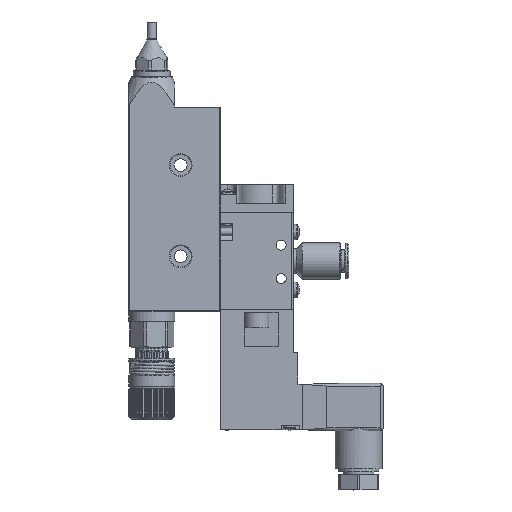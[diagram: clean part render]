
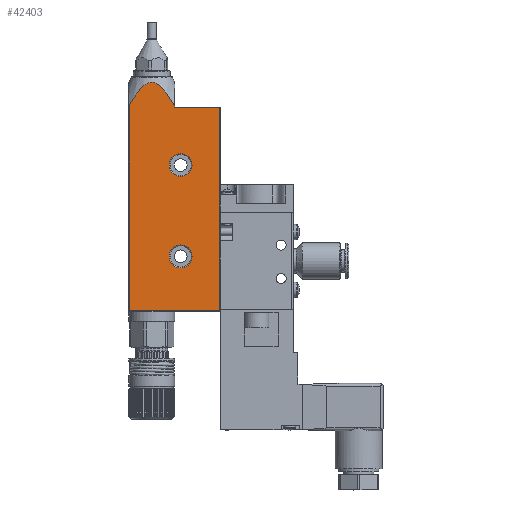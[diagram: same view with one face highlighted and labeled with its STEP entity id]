
A CAD part, left-side view. The second image highlights one B-rep face of the part: STEP entity #42403.
In plain terms, the highlighted planar face has unit normal (-1, 0, 0).
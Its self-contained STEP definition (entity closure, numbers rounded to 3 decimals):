
#72 = CARTESIAN_POINT ( 'NONE',  ( -7.5, -3.358, 34.871 ) ) ;
#244 = CARTESIAN_POINT ( 'NONE',  ( -7.5, -9.5, -20.5 ) ) ;
#413 = CARTESIAN_POINT ( 'NONE',  ( -7.5, 7.5, 28.5 ) ) ;
#504 = CARTESIAN_POINT ( 'NONE',  ( -7.5, 0.235, 36.643 ) ) ;
#711 = CARTESIAN_POINT ( 'NONE',  ( -7.5, 2.151, 35.9 ) ) ;
#783 = VECTOR ( 'NONE', #19632, 1000. ) ;
#930 = CARTESIAN_POINT ( 'NONE',  ( -7.5, 6.843, 30.091 ) ) ;
#1062 = DIRECTION ( 'NONE',  ( 0., 0., 1. ) ) ;
#1589 = VERTEX_POINT ( 'NONE', #13764 ) ;
#2320 = EDGE_CURVE ( 'NONE', #20721, #22735, #36773, .T. ) ;
#2684 = DIRECTION ( 'NONE',  ( 0., -1., 0. ) ) ;
#3169 = EDGE_CURVE ( 'NONE', #32420, #32420, #12852, .T. ) ;
#3564 = VECTOR ( 'NONE', #36811, 1000. ) ;
#4002 = CARTESIAN_POINT ( 'NONE',  ( -7.5, 3.691, 34.53 ) ) ;
#4447 = CARTESIAN_POINT ( 'NONE',  ( -7.5, 6.371, 30.869 ) ) ;
#4882 = CARTESIAN_POINT ( 'NONE',  ( -7.5, 0.006, 36.652 ) ) ;
#5865 = VERTEX_POINT ( 'NONE', #31829 ) ;
#6079 = CARTESIAN_POINT ( 'NONE',  ( -7.5, -22.3, -38.3 ) ) ;
#6330 = LINE ( 'NONE', #413, #783 ) ;
#6687 = VECTOR ( 'NONE', #42795, 1000. ) ;
#6859 = CARTESIAN_POINT ( 'NONE',  ( -7.5, -3.029, 35.19 ) ) ;
#7069 = CARTESIAN_POINT ( 'NONE',  ( -7.5, -5.1, 32.789 ) ) ;
#7201 = CARTESIAN_POINT ( 'NONE',  ( -7.5, -7.5, 28.955 ) ) ;
#7416 = FACE_OUTER_BOUND ( 'NONE', #11067, .T. ) ;
#7505 = CARTESIAN_POINT ( 'NONE',  ( -7.5, 5.376, 32.388 ) ) ;
#8162 = LINE ( 'NONE', #21455, #16915 ) ;
#8173 = CARTESIAN_POINT ( 'NONE',  ( -7.5, 7.3, 29.302 ) ) ;
#9002 = DIRECTION ( 'NONE',  ( 0., 0., -1. ) ) ;
#10075 = AXIS2_PLACEMENT_3D ( 'NONE', #244, #29516, #13599 ) ;
#10549 = CARTESIAN_POINT ( 'NONE',  ( -7.5, 1.96, 36.026 ) ) ;
#10778 = CARTESIAN_POINT ( 'NONE',  ( -7.5, 3.047, 35.184 ) ) ;
#10990 = CARTESIAN_POINT ( 'NONE',  ( -7.5, -0.683, 36.575 ) ) ;
#11067 = EDGE_LOOP ( 'NONE', ( #21561, #38799, #35585, #25377, #13047, #31135 ) ) ;
#11305 = VECTOR ( 'NONE', #9002, 1000. ) ;
#12690 = LINE ( 'NONE', #42561, #11305 ) ;
#12852 = CIRCLE ( 'NONE', #10075, 3.75 ) ;
#12972 = CARTESIAN_POINT ( 'NONE',  ( -7.5, -22.3, 28.5 ) ) ;
#13047 = ORIENTED_EDGE ( 'NONE', *, *, #2320, .T. ) ;
#13206 = CARTESIAN_POINT ( 'NONE',  ( -7.5, -6.585, 30.521 ) ) ;
#13347 = EDGE_CURVE ( 'NONE', #1589, #20721, #39526, .T. ) ;
#13420 = CARTESIAN_POINT ( 'NONE',  ( -7.5, -2.505, 35.64 ) ) ;
#13599 = DIRECTION ( 'NONE',  ( 0., 0., 1. ) ) ;
#13757 = FACE_BOUND ( 'NONE', #18677, .T. ) ;
#13764 = CARTESIAN_POINT ( 'NONE',  ( -7.5, -7.5, 28.5 ) ) ;
#13846 = CARTESIAN_POINT ( 'NONE',  ( -7.5, 2.704, 35.493 ) ) ;
#14250 = AXIS2_PLACEMENT_3D ( 'NONE', #17228, #20708, #1062 ) ;
#16261 = CARTESIAN_POINT ( 'NONE',  ( -7.5, -7.5, 28.955 ) ) ;
#16482 = CARTESIAN_POINT ( 'NONE',  ( -7.5, -7.05, 29.743 ) ) ;
#16682 = CARTESIAN_POINT ( 'NONE',  ( -7.5, -5.61, 32.044 ) ) ;
#16869 = EDGE_LOOP ( 'NONE', ( #41881 ) ) ;
#16882 = CIRCLE ( 'NONE', #41963, 3.75 ) ;
#16915 = VECTOR ( 'NONE', #31459, 1000. ) ;
#17014 = FACE_BOUND ( 'NONE', #16869, .T. ) ;
#17228 = CARTESIAN_POINT ( 'NONE',  ( -7.5, 7.5, 28.5 ) ) ;
#17524 = CARTESIAN_POINT ( 'NONE',  ( -7.5, 1.559, 36.253 ) ) ;
#18428 = LINE ( 'NONE', #41653, #3564 ) ;
#18677 = EDGE_LOOP ( 'NONE', ( #24176 ) ) ;
#19061 = DIRECTION ( 'NONE',  ( 1., 0., 0. ) ) ;
#19564 = VERTEX_POINT ( 'NONE', #12972 ) ;
#19632 = DIRECTION ( 'NONE',  ( 0., 1., 0. ) ) ;
#20708 = DIRECTION ( 'NONE',  ( -1., 0., 0. ) ) ;
#20721 = VERTEX_POINT ( 'NONE', #7201 ) ;
#20782 = VERTEX_POINT ( 'NONE', #20931 ) ;
#20931 = CARTESIAN_POINT ( 'NONE',  ( -7.5, 7.3, -38.3 ) ) ;
#21455 = CARTESIAN_POINT ( 'NONE',  ( -7.5, 7.5, -38.3 ) ) ;
#21466 = CARTESIAN_POINT ( 'NONE',  ( -7.5, -1.331, 36.36 ) ) ;
#21561 = ORIENTED_EDGE ( 'NONE', *, *, #30760, .T. ) ;
#22735 = VERTEX_POINT ( 'NONE', #32437 ) ;
#24176 = ORIENTED_EDGE ( 'NONE', *, *, #38369, .T. ) ;
#24212 = PLANE ( 'NONE',  #14250 ) ;
#24304 = CARTESIAN_POINT ( 'NONE',  ( -7.5, 0.917, 36.513 ) ) ;
#24516 = CARTESIAN_POINT ( 'NONE',  ( -7.5, -1.941, 36.037 ) ) ;
#25377 = ORIENTED_EDGE ( 'NONE', *, *, #13347, .T. ) ;
#26503 = CARTESIAN_POINT ( 'NONE',  ( -7.5, -3.978, 34.205 ) ) ;
#27786 = CARTESIAN_POINT ( 'NONE',  ( -7.5, 1.348, 36.353 ) ) ;
#29026 = EDGE_CURVE ( 'NONE', #19564, #1589, #6330, .T. ) ;
#29300 = CARTESIAN_POINT ( 'NONE',  ( -7.5, -9.5, 9.5 ) ) ;
#29516 = DIRECTION ( 'NONE',  ( 1., 0., 0. ) ) ;
#29559 = CARTESIAN_POINT ( 'NONE',  ( -7.5, -4.267, 33.857 ) ) ;
#29755 = EDGE_CURVE ( 'NONE', #22735, #20782, #12690, .T. ) ;
#29976 = CARTESIAN_POINT ( 'NONE',  ( -7.5, -9.5, -16.75 ) ) ;
#30604 = CARTESIAN_POINT ( 'NONE',  ( -7.5, -1.742, 36.156 ) ) ;
#30657 = EDGE_CURVE ( 'NONE', #31961, #19564, #18428, .T. ) ;
#30760 = EDGE_CURVE ( 'NONE', #20782, #31961, #8162, .T. ) ;
#30818 = CARTESIAN_POINT ( 'NONE',  ( -7.5, 3.992, 34.187 ) ) ;
#31047 = CARTESIAN_POINT ( 'NONE',  ( -7.5, -1.12, 36.445 ) ) ;
#31135 = ORIENTED_EDGE ( 'NONE', *, *, #29755, .T. ) ;
#31459 = DIRECTION ( 'NONE',  ( 0., -1., 0. ) ) ;
#31829 = CARTESIAN_POINT ( 'NONE',  ( -7.5, -13.25, 9.5 ) ) ;
#31961 = VERTEX_POINT ( 'NONE', #6079 ) ;
#32420 = VERTEX_POINT ( 'NONE', #29976 ) ;
#32437 = CARTESIAN_POINT ( 'NONE',  ( -7.5, 7.3, 29.302 ) ) ;
#33676 = CARTESIAN_POINT ( 'NONE',  ( -7.5, -2.858, 35.346 ) ) ;
#34100 = CARTESIAN_POINT ( 'NONE',  ( -7.5, 0.692, 36.573 ) ) ;
#34552 = CARTESIAN_POINT ( 'NONE',  ( -7.5, 4.853, 33.13 ) ) ;
#34764 = CARTESIAN_POINT ( 'NONE',  ( -7.5, -0.453, 36.619 ) ) ;
#35585 = ORIENTED_EDGE ( 'NONE', *, *, #29026, .T. ) ;
#36253 = CARTESIAN_POINT ( 'NONE',  ( -7.5, -7.5, 38.5 ) ) ;
#36773 = B_SPLINE_CURVE_WITH_KNOTS ( 'NONE', 3,
 ( #16261, #16482, #13206, #16682, #7069, #29559, #26503, #39797, #72, #6859, #33676, #13420, #40014, #24516, #30604, #21466, #31047, #10990, #34764, #4882, #504, #34100, #24304, #27786, #17524, #10549, #711, #13846, #10778, #4002, #30818, #34552, #7505, #4447, #930, #8173 ),
 .UNSPECIFIED., .F., .F.,
 ( 4, 2, 2, 2, 2, 2, 2, 2, 2, 2, 2, 2, 2, 2, 2, 2, 2, 4 ),
 ( 0., 0.003, 0.005, 0.007, 0.007, 0.008, 0.009, 0.009, 0.01, 0.011, 0.012, 0.012, 0.013, 0.014, 0.015, 0.016, 0.019, 0.022 ),
 .UNSPECIFIED. ) ;
#36811 = DIRECTION ( 'NONE',  ( 0., 0., 1. ) ) ;
#38369 = EDGE_CURVE ( 'NONE', #5865, #5865, #16882, .T. ) ;
#38799 = ORIENTED_EDGE ( 'NONE', *, *, #30657, .T. ) ;
#39526 = LINE ( 'NONE', #36253, #6687 ) ;
#39797 = CARTESIAN_POINT ( 'NONE',  ( -7.5, -3.517, 34.707 ) ) ;
#40014 = CARTESIAN_POINT ( 'NONE',  ( -7.5, -2.322, 35.78 ) ) ;
#41653 = CARTESIAN_POINT ( 'NONE',  ( -7.5, -22.3, 28.5 ) ) ;
#41881 = ORIENTED_EDGE ( 'NONE', *, *, #3169, .T. ) ;
#41963 = AXIS2_PLACEMENT_3D ( 'NONE', #29300, #19061, #2684 ) ;
#42403 = ADVANCED_FACE ( 'NONE', ( #17014, #13757, #7416 ), #24212, .T. ) ;
#42561 = CARTESIAN_POINT ( 'NONE',  ( -7.5, 7.3, 28.5 ) ) ;
#42795 = DIRECTION ( 'NONE',  ( 0., 0., 1. ) ) ;
